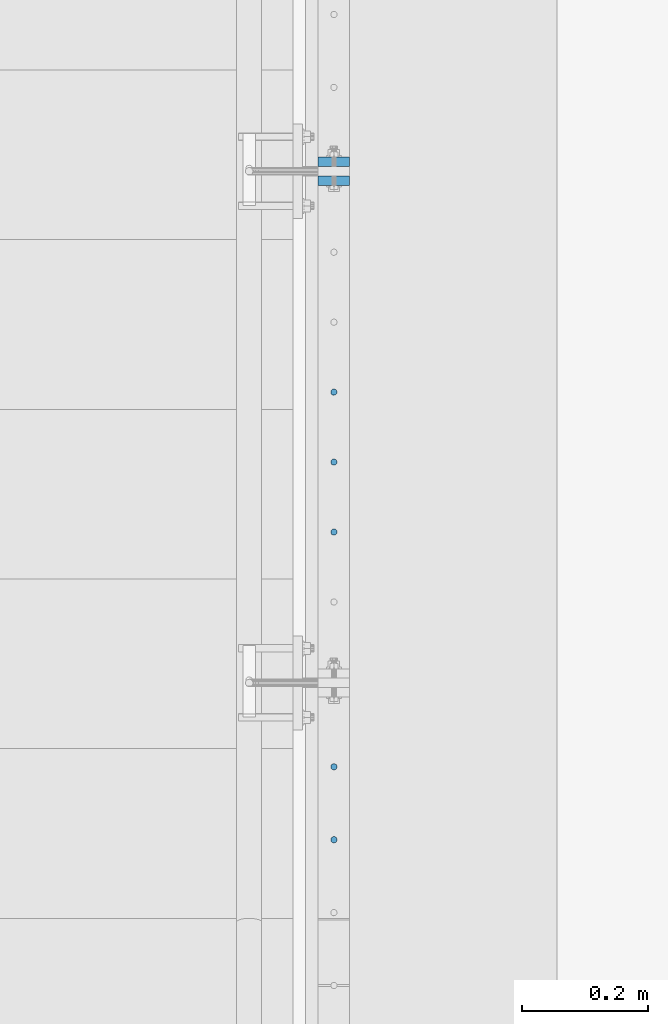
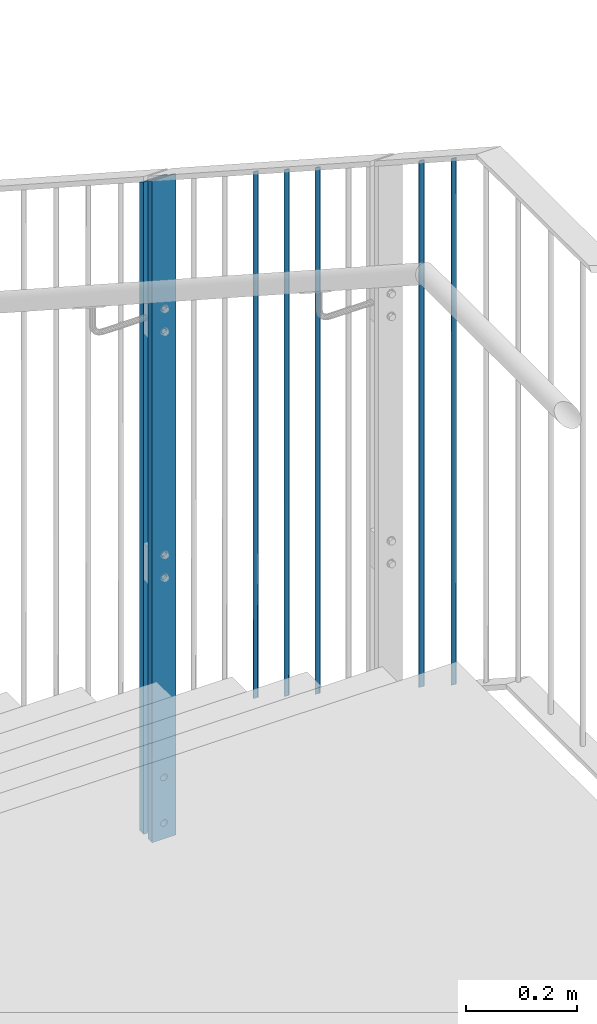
# One storey, part 39 of 296: 7 columns, 12 openings.
"""IFC2X3 building model written with IfcOpenShell, lengths in millimetres."""

from ifc_helpers import new_model, entity, si_unit, converted_unit, frame, frame_2d, origin, origin_with_axes, origin_2d, place, context, project, spatial, rectangle, circle, extrude, clip, halfspace, material, element, save


model = new_model("IFC2X3")

# Units and contexts
model_context = context("Model", 3, precision=1e-09, world=origin_with_axes())
ifc_project = project(units=[si_unit("LENGTHUNIT", "METRE", prefix="MILLI"), si_unit("AREAUNIT", "SQUARE_METRE"), si_unit("VOLUMEUNIT", "CUBIC_METRE"), converted_unit("PLANEANGLEUNIT", "DEGREE", entity("IfcPlaneAngleMeasure", 0.01745329), si_unit("PLANEANGLEUNIT", "RADIAN"), dimensions=[0, 0, 0, 0, 0, 0, 0])], contexts=[model_context])

# Site, building, storey
site_placement = place(None, origin_with_axes())
site = spatial("IfcSite", under=ifc_project, at=site_placement, Name="TZD-S?d | Treppenhausgel?nder", CompositionType="ELEMENT")
building_placement = place(site_placement, origin_with_axes())
building = spatial("IfcBuilding", under=site, at=building_placement, Name="Struktur 1", CompositionType="ELEMENT")
storey_placement = place(building_placement, origin_with_axes())
storey = spatial("IfcBuildingStorey", under=building, at=storey_placement, Name="Default Storey", CompositionType="ELEMENT", Elevation=0.0)

# Column, openings
ifc_material = material(Name="S235JR")
column_1_placement = place(None, frame((5894.999, -1505.0, 12529.999), z_axis=(0.0, 0.0, 1.0), x_axis=(0.0, -1.0, 0.0)))
column_1 = element("IfcColumn", 1, at=column_1_placement, inside=storey, material=ifc_material, Name="-", ObjectType="-", context=model_context, shape_type="Clipping", body=[
    clip(extrude(rectangle(XDim=15.0, YDim=50.0, at=origin_2d()), origin(), (0.0, 0.0, 1.0), 1459.011596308), halfspace(frame((-7428.187002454, -5894.999, -3381.407055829), z_axis=(0.543478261, 0.0, -0.839423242), x_axis=(0.0, 1.0, 0.0)), True)),
])
opening_1_placement = place(column_1_placement, frame((-8.0, 5.001, 1165.12893099), z_axis=(-1.0, 0.0, 0.0), x_axis=(0.0, -1.0, 0.0)))
element("IfcOpeningElement", 2, at=opening_1_placement, cuts=column_1, ObjectType="Opening", context=model_context, shape_type="SweptSolid", body=[
    extrude(circle(Radius=5.001, at=frame_2d((5.001, 0.0), x_axis=(1.0, 0.0))), origin(), (0.0, 0.0, -1.0), 16.0),
])
opening_2_placement = place(column_1_placement, frame((-8.0, 5.001, 1115.12893099), z_axis=(-1.0, 0.0, 0.0), x_axis=(0.0, -1.0, 0.0)))
element("IfcOpeningElement", 3, at=opening_2_placement, cuts=column_1, ObjectType="Opening", context=model_context, shape_type="SweptSolid", body=[
    extrude(circle(Radius=5.001, at=frame_2d((5.001, 0.0), x_axis=(1.0, 0.0))), origin(), (0.0, 0.0, -1.0), 16.0),
])
opening_3_placement = place(column_1_placement, frame((-8.0, 7.001, 135.0), z_axis=(-1.0, 0.0, 0.0), x_axis=(0.0, -1.0, 0.0)))
element("IfcOpeningElement", 4, at=opening_3_placement, cuts=column_1, ObjectType="Opening", context=model_context, shape_type="SweptSolid", body=[
    extrude(circle(Radius=7.001, at=frame_2d((7.001, 0.0), x_axis=(1.0, 0.0))), origin(), (0.0, 0.0, -1.0), 16.0),
])
opening_4_placement = place(column_1_placement, frame((-8.0, 7.001, 35.0), z_axis=(-1.0, 0.0, 0.0), x_axis=(0.0, -1.0, 0.0)))
element("IfcOpeningElement", 5, at=opening_4_placement, cuts=column_1, ObjectType="Opening", context=model_context, shape_type="SweptSolid", body=[
    extrude(circle(Radius=7.001, at=frame_2d((7.001, 0.0), x_axis=(1.0, 0.0))), origin(), (0.0, 0.0, -1.0), 16.0),
])
opening_5_placement = place(column_1_placement, frame((-8.0, 5.001, 624.999999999), z_axis=(-1.0, 0.0, 0.0), x_axis=(0.0, -1.0, 0.0)))
element("IfcOpeningElement", 6, at=opening_5_placement, cuts=column_1, ObjectType="Opening", context=model_context, shape_type="SweptSolid", body=[
    extrude(circle(Radius=5.001, at=frame_2d((5.001, 0.0), x_axis=(1.0, 0.0))), origin(), (0.0, 0.0, -1.0), 16.0),
])
opening_6_placement = place(column_1_placement, frame((-8.0, 5.001, 574.999999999), z_axis=(-1.0, 0.0, 0.0), x_axis=(0.0, -1.0, 0.0)))
element("IfcOpeningElement", 7, at=opening_6_placement, cuts=column_1, ObjectType="Opening", context=model_context, shape_type="SweptSolid", body=[
    extrude(circle(Radius=5.001, at=frame_2d((5.001, 0.0), x_axis=(1.0, 0.0))), origin(), (0.0, 0.0, -1.0), 16.0),
])

column_2_placement = place(None, frame((5894.999, -1535.0, 12529.999), z_axis=(0.0, 0.0, -1.0), x_axis=(0.0, 1.0, 0.0)))
column_2 = element("IfcColumn", 8, at=column_2_placement, inside=storey, material=ifc_material, Name="-", ObjectType="-", context=model_context, shape_type="Clipping", body=[
    clip(extrude(rectangle(XDim=15.0, YDim=50.0, at=origin_2d()), origin(), (0.0, 0.0, -1.0), 1478.434870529), halfspace(frame((7458.187002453, -5894.999, 3381.407055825), z_axis=(-0.543478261, 0.0, 0.839423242), x_axis=(0.0, 1.0, 0.0)), True)),
])
opening_7_placement = place(column_2_placement, frame((8.0, 5.001, -624.999999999), z_axis=(1.0, 0.0, 0.0), x_axis=(0.0, 1.0, 0.0)))
element("IfcOpeningElement", 9, at=opening_7_placement, cuts=column_2, ObjectType="Opening", context=model_context, shape_type="SweptSolid", body=[
    extrude(circle(Radius=5.001, at=frame_2d((-5.001, 0.0), x_axis=(1.0, 0.0))), origin(), (0.0, 0.0, -1.0), 16.0),
])
opening_8_placement = place(column_2_placement, frame((8.0, 5.001, -574.999999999), z_axis=(1.0, 0.0, 0.0), x_axis=(0.0, 1.0, 0.0)))
element("IfcOpeningElement", 10, at=opening_8_placement, cuts=column_2, ObjectType="Opening", context=model_context, shape_type="SweptSolid", body=[
    extrude(circle(Radius=5.001, at=frame_2d((-5.001, 0.0), x_axis=(1.0, 0.0))), origin(), (0.0, 0.0, -1.0), 16.0),
])
opening_9_placement = place(column_2_placement, frame((8.0, 7.001, -135.0), z_axis=(1.0, 0.0, 0.0), x_axis=(0.0, 1.0, 0.0)))
element("IfcOpeningElement", 11, at=opening_9_placement, cuts=column_2, ObjectType="Opening", context=model_context, shape_type="SweptSolid", body=[
    extrude(circle(Radius=7.001, at=frame_2d((-7.001, 0.0), x_axis=(1.0, 0.0))), origin(), (0.0, 0.0, -1.0), 16.0),
])
opening_10_placement = place(column_2_placement, frame((8.0, 7.001, -35.0), z_axis=(1.0, 0.0, 0.0), x_axis=(0.0, 1.0, 0.0)))
element("IfcOpeningElement", 12, at=opening_10_placement, cuts=column_2, ObjectType="Opening", context=model_context, shape_type="SweptSolid", body=[
    extrude(circle(Radius=7.001, at=frame_2d((-7.001, 0.0), x_axis=(1.0, 0.0))), origin(), (0.0, 0.0, -1.0), 16.0),
])
opening_11_placement = place(column_2_placement, frame((8.0, 5.001, -1165.12893099), z_axis=(1.0, 0.0, 0.0), x_axis=(0.0, 1.0, 0.0)))
element("IfcOpeningElement", 13, at=opening_11_placement, cuts=column_2, ObjectType="Opening", context=model_context, shape_type="SweptSolid", body=[
    extrude(circle(Radius=5.001, at=frame_2d((-5.001, 0.0), x_axis=(1.0, 0.0))), origin(), (0.0, 0.0, -1.0), 16.0),
])
opening_12_placement = place(column_2_placement, frame((8.0, 5.001, -1115.12893099), z_axis=(1.0, 0.0, 0.0), x_axis=(0.0, 1.0, 0.0)))
element("IfcOpeningElement", 14, at=opening_12_placement, cuts=column_2, ObjectType="Opening", context=model_context, shape_type="SweptSolid", body=[
    extrude(circle(Radius=5.001, at=frame_2d((-5.001, 0.0), x_axis=(1.0, 0.0))), origin(), (0.0, 0.0, -1.0), 16.0),
])

# Columns
column_3_placement = place(None, frame((5894.999, -2584.7222223, 13486.420623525), z_axis=(0.0, 0.0, -1.0), x_axis=(0.0, 1.0, 0.0)))
element("IfcColumn", 15, at=column_3_placement, inside=storey, material=ifc_material, Name="-", ObjectType="-", context=model_context, shape_type="Clipping", body=[
    clip(clip(extrude(circle(Radius=5.0, at=origin_2d()), origin(), (0.0, 0.0, -1.0), 1184.934501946), halfspace(frame((8507.909224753, -5894.999, 4337.828679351), z_axis=(-0.543478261, 0.0, 0.839423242), x_axis=(0.0, 1.0, 0.0)), True)), halfspace(frame((7980.454101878, -5894.999, 5152.503564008), z_axis=(0.543478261, 0.0, -0.839423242), x_axis=(0.0, -1.0, 0.0)), True)),
])
column_4_placement = place(None, frame((5894.999, -2468.6111112, 13411.245358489), z_axis=(0.0, 0.0, -1.0), x_axis=(0.0, 1.0, 0.0)))
element("IfcColumn", 16, at=column_4_placement, inside=storey, material=ifc_material, Name="-", ObjectType="-", context=model_context, shape_type="Clipping", body=[
    clip(clip(extrude(circle(Radius=5.0, at=origin_2d()), origin(), (0.0, 0.0, -1.0), 1184.934501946), halfspace(frame((7864.342990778, -5894.999, 5077.328298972), z_axis=(0.543478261, 0.0, -0.839423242), x_axis=(0.0, -1.0, 0.0)), True)), halfspace(frame((8391.798113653, -5894.999, 4262.653414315), z_axis=(-0.543478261, 0.0, 0.839423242), x_axis=(0.0, 1.0, 0.0)), True)),
])
column_5_placement = place(None, frame((5894.999, -2094.6428572, 13169.122426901), z_axis=(0.0, 0.0, -1.0), x_axis=(0.0, 1.0, 0.0)))
element("IfcColumn", 17, at=column_5_placement, inside=storey, material=ifc_material, Name="-", ObjectType="-", context=model_context, shape_type="Clipping", body=[
    clip(clip(extrude(circle(Radius=5.0, at=origin_2d()), origin(), (0.0, 0.0, -1.0), 1184.934501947), halfspace(frame((8017.829859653, -5894.999, 4020.530482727), z_axis=(-0.543478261, 0.0, 0.839423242), x_axis=(0.0, 1.0, 0.0)), True)), halfspace(frame((7490.374736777, -5894.999, 4835.205367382), z_axis=(0.543478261, 0.0, -0.839423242), x_axis=(0.0, -1.0, 0.0)), True)),
])
column_6_placement = place(None, frame((5894.999, -1983.2142858, 13096.978836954), z_axis=(0.0, 0.0, -1.0), x_axis=(0.0, 1.0, 0.0)))
element("IfcColumn", 18, at=column_6_placement, inside=storey, material=ifc_material, Name="-", ObjectType="-", context=model_context, shape_type="Clipping", body=[
    clip(clip(extrude(circle(Radius=5.0, at=origin_2d()), origin(), (0.0, 0.0, -1.0), 1184.934501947), halfspace(frame((7906.401288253, -5894.999, 3948.386892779), z_axis=(-0.543478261, 0.0, 0.839423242), x_axis=(0.0, 1.0, 0.0)), True)), halfspace(frame((7378.946165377, -5894.999, 4763.061777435), z_axis=(0.543478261, 0.0, -0.839423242), x_axis=(0.0, -1.0, 0.0)), True)),
])
column_7_placement = place(None, frame((5894.999, -1871.7857144, 13024.835247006), z_axis=(0.0, 0.0, -1.0), x_axis=(0.0, 1.0, 0.0)))
element("IfcColumn", 19, at=column_7_placement, inside=storey, material=ifc_material, Name="-", ObjectType="-", context=model_context, shape_type="Clipping", body=[
    clip(clip(extrude(circle(Radius=5.0, at=origin_2d()), origin(), (0.0, 0.0, -1.0), 1184.934501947), halfspace(frame((7267.517593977, -5894.999, 4690.918187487), z_axis=(0.543478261, 0.0, -0.839423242), x_axis=(0.0, -1.0, 0.0)), True)), halfspace(frame((7794.972716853, -5894.999, 3876.243302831), z_axis=(-0.543478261, 0.0, 0.839423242), x_axis=(0.0, 1.0, 0.0)), True)),
])

save(model, "model.ifc")
